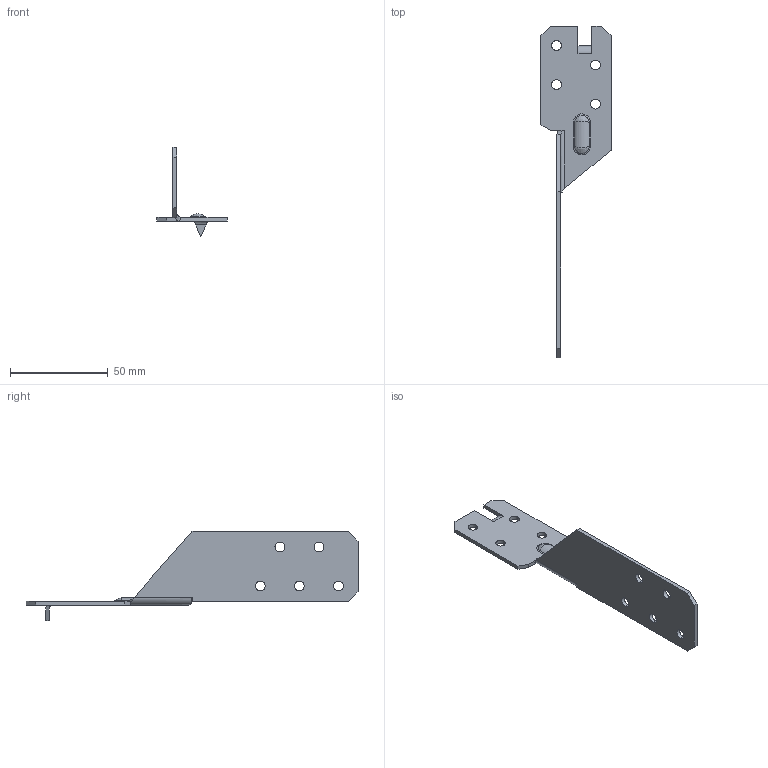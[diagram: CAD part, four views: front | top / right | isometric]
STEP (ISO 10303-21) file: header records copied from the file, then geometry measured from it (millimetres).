
FILE_DESCRIPTION (( 'STEP AP203' ), '1' );
FILE_NAME ('100501RLD.STEP', '2020-02-13T14:09:50', ( '' ), ( '' ), 'SwSTEP 2.0', 'SolidWorks 2013', '' );
FILE_SCHEMA (( 'CONFIG_CONTROL_DESIGN' ));
Length unit declared in the file: millimetre
Products named in the file (1): 100501RLD
Bounding box: 36 x 170 x 45.74 mm (x, y, z)
Volume: 11642.7 mm3; surface area: 12930.9 mm2
Topology: 1 solids, 1 shells, 72 faces, 186 edges, 118 vertices
Faces by surface type: plane 34, cylinder 28, bspline 10
Entity records: 2938 total; most frequent: CARTESIAN_POINT 1106, ORIENTED_EDGE 372, DIRECTION 342, EDGE_CURVE 186, VERTEX_POINT 118, VECTOR 116, LINE 116, AXIS2_PLACEMENT_3D 113
